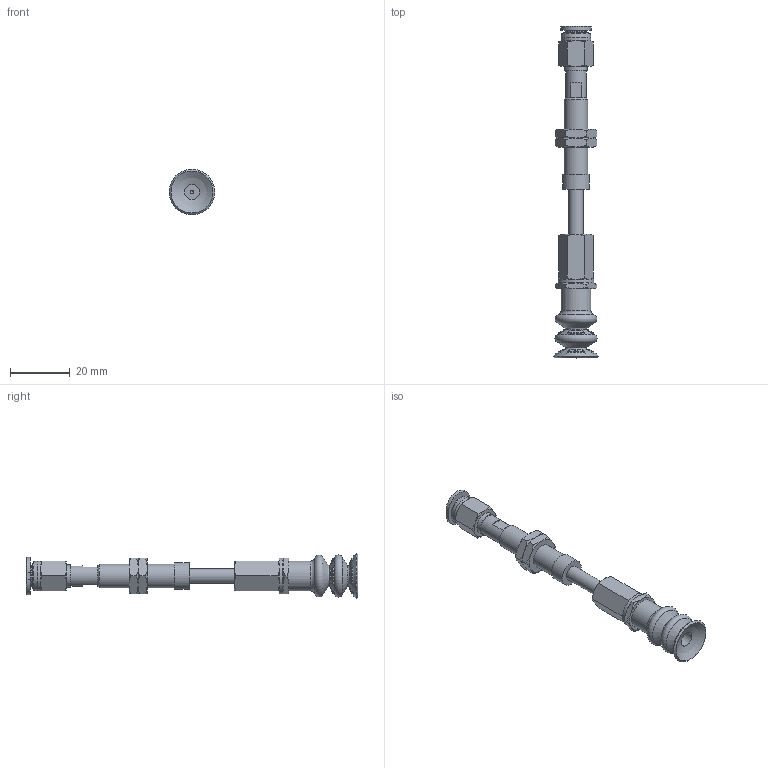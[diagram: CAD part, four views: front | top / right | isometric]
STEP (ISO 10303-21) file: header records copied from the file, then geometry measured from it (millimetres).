
FILE_DESCRIPTION(('STEP AP203'),'1');
FILE_NAME('-O.stp','2025-08-27T02:15:31',(' '),(' '),'Spatial InterOp 3D',' ',' ');
FILE_SCHEMA(('CONFIG_CONTROL_DESIGN'));
Length unit declared in the file: millimetre
Products named in the file (8): BNABPCTS-15-15-※-O; ADAPTER; NAPCTS-10-15-MBODY; Adapter_napc-15-T; Nut napc_s-15-15; NAPCTS-15-15-FBODY; BPCG-15-※; PC-C_06-M5
Assembly tree (8 placements, depth 2):
  BNABPCTS-15-15-※-O
    ADAPTER
    NAPCTS-10-15-MBODY
    Adapter_napc-15-T
    Nut napc_s-15-15  x2
    NAPCTS-15-15-FBODY
    BPCG-15-※
    PC-C_06-M5
Bounding box: 15.2 x 110.68 x 15.2 mm (x, y, z)
Volume: 6056.5 mm3; surface area: 7244.2 mm2
Topology: 7 solids, 10 shells, 271 faces, 760 edges, 485 vertices
Faces by surface type: cone 79, plane 65, sphere 58, torus 36, cylinder 26, bspline 4, revolution 3
Full cylindrical faces by diameter (mm): 1.25 x1, 4 x2, 4.134 x2, 5 x8, 7 x2, 7.188 x2, 7.4 x1, 8 x1, 8.2 x1, 9 x1, 10 x2, 12 x1
Entity records: 7819 total; most frequent: CARTESIAN_POINT 2404, DIRECTION 1087, ORIENTED_EDGE 926, AXIS2_PLACEMENT_3D 520, EDGE_CURVE 465, EDGE_LOOP 350, VERTEX_POINT 326, CIRCLE 271
